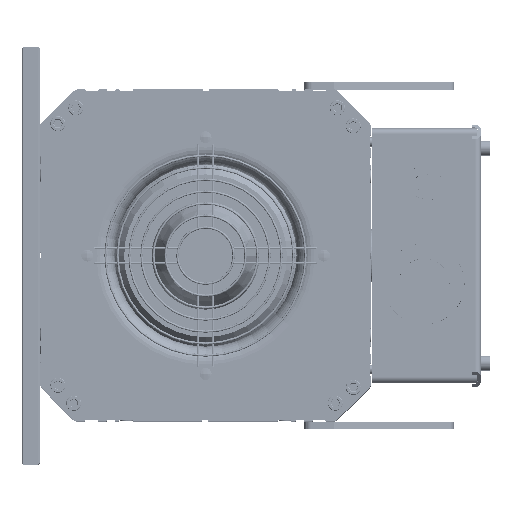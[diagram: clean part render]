
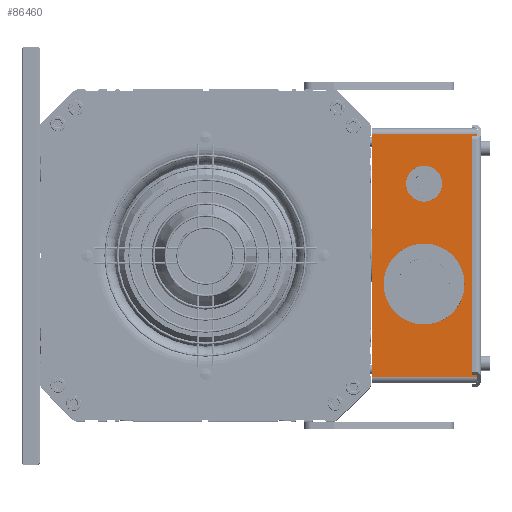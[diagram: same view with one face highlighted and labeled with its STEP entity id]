
A CAD part, top view. The second image highlights one B-rep face of the part: STEP entity #86460.
In plain terms, the highlighted planar face has unit normal (0, 0, 1) as drawn and (1, 0, 0) by its records, which use the part's own axes.
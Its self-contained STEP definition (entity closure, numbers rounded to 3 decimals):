
#83854=DIRECTION('',(0.,1.,0.));
#83855=VECTOR('',#83854,162.);
#83856=CARTESIAN_POINT('',(80.,-81.,0.));
#83857=LINE('',#83856,#83855);
#83939=DIRECTION('',(0.,0.,-1.));
#83940=VECTOR('',#83939,70.);
#83941=CARTESIAN_POINT('',(80.,-81.,70.));
#83942=LINE('',#83941,#83940);
#84459=DIRECTION('',(0.,0.,1.));
#84460=VECTOR('',#84459,70.);
#84461=CARTESIAN_POINT('',(80.,81.,0.));
#84462=LINE('',#84461,#84460);
#84467=CARTESIAN_POINT('',(80.,-48.,35.));
#84468=DIRECTION('',(1.,0.,0.));
#84469=DIRECTION('',(0.,0.,1.));
#84470=AXIS2_PLACEMENT_3D('',#84467,#84468,#84469);
#84472=CARTESIAN_POINT('',(80.,-48.,35.));
#84473=DIRECTION('',(1.,0.,0.));
#84474=DIRECTION('',(0.,0.,-1.));
#84475=AXIS2_PLACEMENT_3D('',#84472,#84473,#84474);
#84477=CARTESIAN_POINT('',(80.,19.,35.));
#84478=DIRECTION('',(1.,0.,0.));
#84479=DIRECTION('',(0.,0.,1.));
#84480=AXIS2_PLACEMENT_3D('',#84477,#84478,#84479);
#84482=CARTESIAN_POINT('',(80.,19.,35.));
#84483=DIRECTION('',(1.,0.,0.));
#84484=DIRECTION('',(0.,0.,-1.));
#84485=AXIS2_PLACEMENT_3D('',#84482,#84483,#84484);
#84487=DIRECTION('',(0.,1.,0.));
#84488=VECTOR('',#84487,162.);
#84489=CARTESIAN_POINT('',(80.,-81.,70.));
#84490=LINE('',#84489,#84488);
#85409=CARTESIAN_POINT('',(80.,-48.,43.));
#85410=CARTESIAN_POINT('',(80.,-48.,27.));
#85411=VERTEX_POINT('',#85409);
#85412=VERTEX_POINT('',#85410);
#85413=CARTESIAN_POINT('',(80.,19.,55.75));
#85414=CARTESIAN_POINT('',(80.,19.,14.25));
#85415=VERTEX_POINT('',#85413);
#85416=VERTEX_POINT('',#85414);
#85681=CARTESIAN_POINT('',(80.,-81.,0.));
#85683=VERTEX_POINT('',#85681);
#85694=CARTESIAN_POINT('',(80.,81.,0.));
#85696=VERTEX_POINT('',#85694);
#85713=CARTESIAN_POINT('',(80.,81.,70.));
#85715=VERTEX_POINT('',#85713);
#85726=CARTESIAN_POINT('',(80.,-81.,70.));
#85728=VERTEX_POINT('',#85726);
#86437=CARTESIAN_POINT('',(80.,-85.,0.));
#86438=DIRECTION('',(1.,0.,0.));
#86439=DIRECTION('',(0.,1.,0.));
#86440=AXIS2_PLACEMENT_3D('',#86437,#86438,#86439);
#86441=PLANE('',#86440);
#86442=ORIENTED_EDGE('',*,*,#86428,.F.);
#86443=ORIENTED_EDGE('',*,*,#85736,.F.);
#86444=ORIENTED_EDGE('',*,*,#85792,.F.);
#86445=ORIENTED_EDGE('',*,*,#86354,.T.);
#86446=EDGE_LOOP('',(#86442,#86443,#86444,#86445));
#86447=FACE_OUTER_BOUND('',#86446,.F.);
#86449=ORIENTED_EDGE('',*,*,#86448,.T.);
#86451=ORIENTED_EDGE('',*,*,#86450,.T.);
#86452=EDGE_LOOP('',(#86449,#86451));
#86453=FACE_BOUND('',#86452,.F.);
#86455=ORIENTED_EDGE('',*,*,#86454,.T.);
#86457=ORIENTED_EDGE('',*,*,#86456,.T.);
#86458=EDGE_LOOP('',(#86455,#86457));
#86459=FACE_BOUND('',#86458,.F.);
#86460=ADVANCED_FACE('',(#86447,#86453,#86459),#86441,.T.);
#84471=CIRCLE('',#84470,8.);
#84476=CIRCLE('',#84475,8.);
#84481=CIRCLE('',#84480,20.75);
#84486=CIRCLE('',#84485,20.75);
#85736=EDGE_CURVE('',#85683,#85696,#83857,.T.);
#85792=EDGE_CURVE('',#85728,#85683,#83942,.T.);
#86354=EDGE_CURVE('',#85728,#85715,#84490,.T.);
#86428=EDGE_CURVE('',#85696,#85715,#84462,.T.);
#86448=EDGE_CURVE('',#85415,#85416,#84481,.T.);
#86450=EDGE_CURVE('',#85416,#85415,#84486,.T.);
#86454=EDGE_CURVE('',#85411,#85412,#84471,.T.);
#86456=EDGE_CURVE('',#85412,#85411,#84476,.T.);
